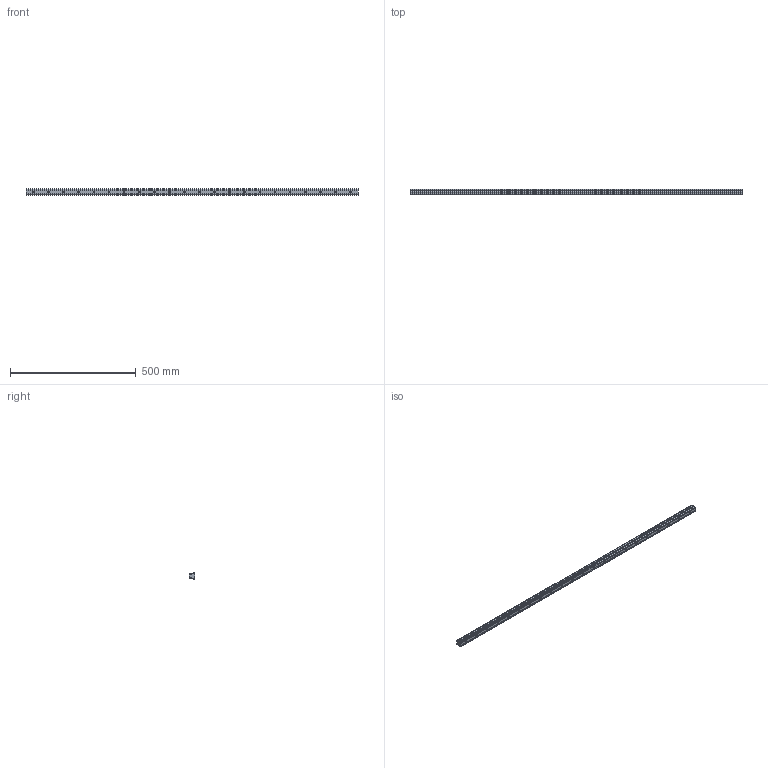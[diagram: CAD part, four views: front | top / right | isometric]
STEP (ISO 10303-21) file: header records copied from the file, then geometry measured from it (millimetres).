
FILE_DESCRIPTION (( 'STEP AP203' ), '1' );
FILE_NAME ('L1018.25R-1320.step', '2023-08-06T10:36:43', ( '' ), ( '' ), 'SwSTEP 2.0', 'SolidWorks 2019', '' );
FILE_SCHEMA (( 'CONFIG_CONTROL_DESIGN' ));
Length unit declared in the file: millimetre
Products named in the file (1): L1018.25R-1320
Bounding box: 1320 x 21.8 x 25 mm (x, y, z)
Volume: 548972.3 mm3; surface area: 131921.1 mm2
Topology: 1 solids, 1 shells, 227 faces, 521 edges, 296 vertices
Faces by surface type: cylinder 91, cone 88, plane 48
Entity records: 6146 total; most frequent: DIRECTION 1159, CARTESIAN_POINT 1001, ORIENTED_EDGE 954, EDGE_CURVE 477, AXIS2_PLACEMENT_3D 454, VERTEX_POINT 296, EDGE_LOOP 271, VECTOR 251
